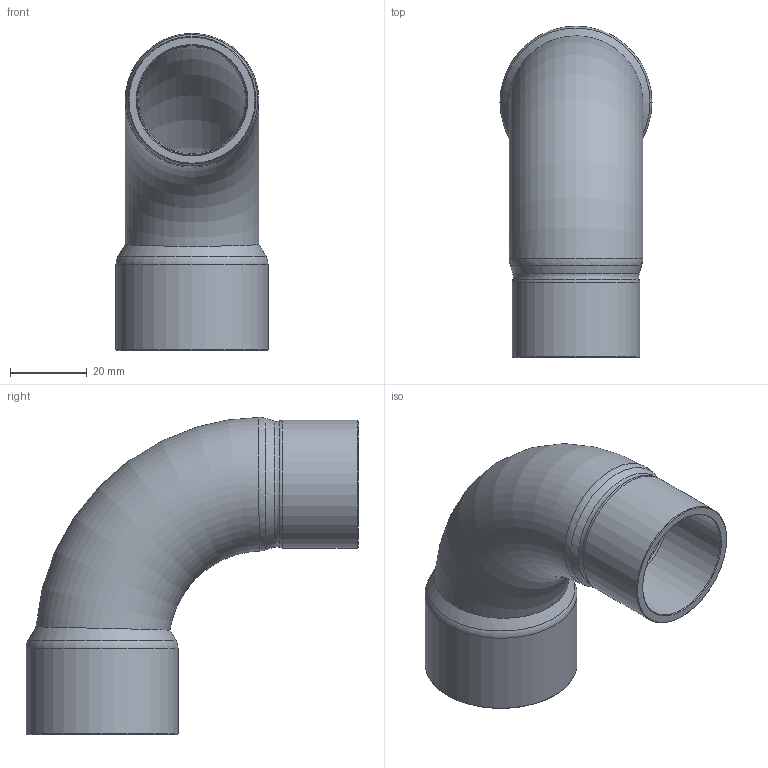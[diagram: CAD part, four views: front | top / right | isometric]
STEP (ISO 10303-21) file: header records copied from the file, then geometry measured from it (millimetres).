
FILE_DESCRIPTION((''),'2;1');
FILE_NAME('G:\SANHA-Ternat\Technik\Management\Bouwmaten + markeringen\z-maattekeningen 3D\29000s\29000s_gem\29002AR138118_gem.stp','2020-03-27T09:11:12',('vdvijverd'),(''),'Autodesk Inventor 2009','Autodesk Inventor 2009','');
FILE_SCHEMA(('AUTOMOTIVE_DESIGN { 1 0 10303 214 1 1 1 1 }'));
Length unit declared in the file: millimetre
Products named in the file (1): 29002AR138118_gem
Bounding box: 39.7 x 86.72 x 82.85 mm (x, y, z)
Volume: 27730.9 mm3; surface area: 24553.2 mm2
Topology: 1 solids, 1 shells, 24 faces, 50 edges, 28 vertices
Faces by surface type: cone 8, bspline 5, torus 5, cylinder 4, plane 2
Full cylindrical faces by diameter (mm): 28.725 x1, 33.325 x1, 35.105 x1, 39.705 x1
Entity records: 1486 total; most frequent: CARTESIAN_POINT 1071, DIRECTION 80, ORIENTED_EDGE 52, EDGE_LOOP 46, AXIS2_PLACEMENT_3D 40, EDGE_CURVE 26, VERTEX_POINT 24, FACE_OUTER_BOUND 24
